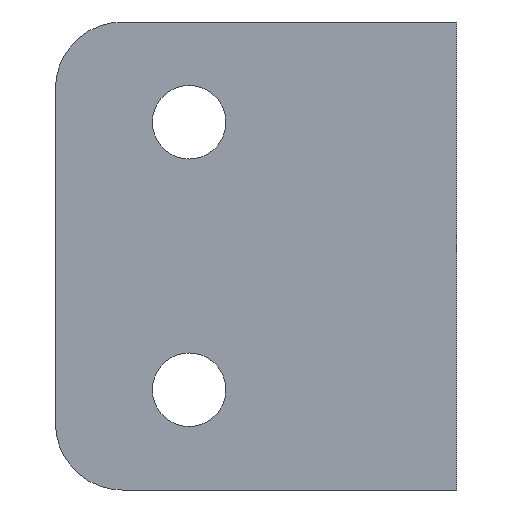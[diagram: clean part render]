
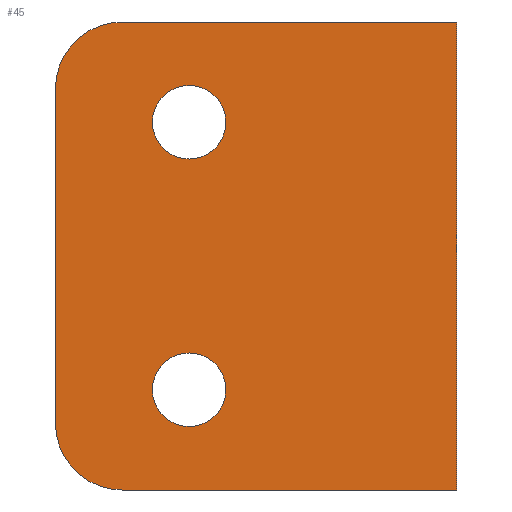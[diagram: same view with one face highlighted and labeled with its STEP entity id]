
A CAD part, front view. The second image highlights one B-rep face of the part: STEP entity #45.
In plain terms, the highlighted planar face has unit normal (0, -1, 0).
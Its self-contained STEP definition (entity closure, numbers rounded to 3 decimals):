
#2 = CARTESIAN_POINT ( 'NONE',  ( 0., 0., 17.5 ) ) ;
#14 = EDGE_CURVE ( 'NONE', #820, #436, #964, .T. ) ;
#34 = CIRCLE ( 'NONE', #442, 2.75 ) ;
#38 = DIRECTION ( 'NONE',  ( 0., 1., 0. ) ) ;
#45 = ADVANCED_FACE ( 'NONE', ( #932, #747, #712 ), #722, .F. ) ;
#46 = DIRECTION ( 'NONE',  ( 1., 0., 0. ) ) ;
#54 = ORIENTED_EDGE ( 'NONE', *, *, #575, .T. ) ;
#64 = EDGE_CURVE ( 'NONE', #555, #820, #297, .T. ) ;
#65 = VERTEX_POINT ( 'NONE', #690 ) ;
#66 = CARTESIAN_POINT ( 'NONE',  ( -30., 0., 17.5 ) ) ;
#96 = DIRECTION ( 'NONE',  ( 0., 1., 0. ) ) ;
#107 = AXIS2_PLACEMENT_3D ( 'NONE', #450, #661, #383 ) ;
#131 = ORIENTED_EDGE ( 'NONE', *, *, #156, .T. ) ;
#147 = ORIENTED_EDGE ( 'NONE', *, *, #516, .T. ) ;
#156 = EDGE_CURVE ( 'NONE', #449, #596, #755, .T. ) ;
#174 = CARTESIAN_POINT ( 'NONE',  ( -30., 0., 12.5 ) ) ;
#192 = DIRECTION ( 'NONE',  ( 0., 1., 0. ) ) ;
#199 = DIRECTION ( 'NONE',  ( 0., 0., 1. ) ) ;
#210 = EDGE_LOOP ( 'NONE', ( #131, #1037 ) ) ;
#229 = EDGE_LOOP ( 'NONE', ( #147, #54 ) ) ;
#297 = LINE ( 'NONE', #66, #490 ) ;
#317 = EDGE_CURVE ( 'NONE', #550, #65, #546, .T. ) ;
#324 = ORIENTED_EDGE ( 'NONE', *, *, #64, .T. ) ;
#337 = CARTESIAN_POINT ( 'NONE',  ( -20., 0., 12.75 ) ) ;
#339 = ORIENTED_EDGE ( 'NONE', *, *, #317, .F. ) ;
#347 = DIRECTION ( 'NONE',  ( -1., 0., 0. ) ) ;
#355 = ORIENTED_EDGE ( 'NONE', *, *, #1032, .F. ) ;
#366 = AXIS2_PLACEMENT_3D ( 'NONE', #737, #615, #591 ) ;
#375 = CARTESIAN_POINT ( 'NONE',  ( -20., 0., 10. ) ) ;
#383 = DIRECTION ( 'NONE',  ( 0., 0., 1. ) ) ;
#422 = CIRCLE ( 'NONE', #366, 5. ) ;
#423 = AXIS2_PLACEMENT_3D ( 'NONE', #505, #38, #607 ) ;
#436 = VERTEX_POINT ( 'NONE', #888 ) ;
#442 = AXIS2_PLACEMENT_3D ( 'NONE', #375, #96, #199 ) ;
#449 = VERTEX_POINT ( 'NONE', #980 ) ;
#450 = CARTESIAN_POINT ( 'NONE',  ( -20., 0., -10. ) ) ;
#465 = CARTESIAN_POINT ( 'NONE',  ( 0., 0., 17.5 ) ) ;
#473 = DIRECTION ( 'NONE',  ( 0., 0., 1. ) ) ;
#486 = EDGE_CURVE ( 'NONE', #436, #784, #696, .T. ) ;
#490 = VECTOR ( 'NONE', #1002, 1000. ) ;
#494 = CARTESIAN_POINT ( 'NONE',  ( -30., 0., -12.5 ) ) ;
#505 = CARTESIAN_POINT ( 'NONE',  ( -20., 0., -10. ) ) ;
#516 = EDGE_CURVE ( 'NONE', #1038, #846, #670, .T. ) ;
#546 = LINE ( 'NONE', #465, #963 ) ;
#550 = VERTEX_POINT ( 'NONE', #567 ) ;
#555 = VERTEX_POINT ( 'NONE', #174 ) ;
#567 = CARTESIAN_POINT ( 'NONE',  ( -25., 0., 17.5 ) ) ;
#575 = EDGE_CURVE ( 'NONE', #846, #1038, #34, .T. ) ;
#591 = DIRECTION ( 'NONE',  ( -1., 0., 0. ) ) ;
#596 = VERTEX_POINT ( 'NONE', #985 ) ;
#597 = EDGE_CURVE ( 'NONE', #596, #449, #621, .T. ) ;
#607 = DIRECTION ( 'NONE',  ( 0., 0., 1. ) ) ;
#615 = DIRECTION ( 'NONE',  ( 0., -1., 0. ) ) ;
#621 = CIRCLE ( 'NONE', #423, 2.75 ) ;
#645 = AXIS2_PLACEMENT_3D ( 'NONE', #968, #1024, #706 ) ;
#661 = DIRECTION ( 'NONE',  ( 0., 1., 0. ) ) ;
#662 = ORIENTED_EDGE ( 'NONE', *, *, #14, .T. ) ;
#670 = CIRCLE ( 'NONE', #983, 2.75 ) ;
#678 = CARTESIAN_POINT ( 'NONE',  ( -20., 0., 7.25 ) ) ;
#682 = EDGE_CURVE ( 'NONE', #550, #555, #422, .T. ) ;
#690 = CARTESIAN_POINT ( 'NONE',  ( 0., 0., 17.5 ) ) ;
#696 = LINE ( 'NONE', #990, #896 ) ;
#702 = ORIENTED_EDGE ( 'NONE', *, *, #682, .T. ) ;
#706 = DIRECTION ( 'NONE',  ( -1., 0., 0. ) ) ;
#712 = FACE_OUTER_BOUND ( 'NONE', #1013, .T. ) ;
#722 = PLANE ( 'NONE',  #645 ) ;
#733 = DIRECTION ( 'NONE',  ( 1., 0., 0. ) ) ;
#737 = CARTESIAN_POINT ( 'NONE',  ( -25., 0., 12.5 ) ) ;
#747 = FACE_BOUND ( 'NONE', #229, .T. ) ;
#755 = CIRCLE ( 'NONE', #107, 2.75 ) ;
#779 = DIRECTION ( 'NONE',  ( 0., 0., -1. ) ) ;
#784 = VERTEX_POINT ( 'NONE', #843 ) ;
#797 = CARTESIAN_POINT ( 'NONE',  ( -25., 0., -12.5 ) ) ;
#809 = ORIENTED_EDGE ( 'NONE', *, *, #486, .T. ) ;
#820 = VERTEX_POINT ( 'NONE', #494 ) ;
#843 = CARTESIAN_POINT ( 'NONE',  ( 0., 0., -17.5 ) ) ;
#846 = VERTEX_POINT ( 'NONE', #678 ) ;
#870 = LINE ( 'NONE', #2, #927 ) ;
#874 = AXIS2_PLACEMENT_3D ( 'NONE', #797, #998, #347 ) ;
#888 = CARTESIAN_POINT ( 'NONE',  ( -25., 0., -17.5 ) ) ;
#896 = VECTOR ( 'NONE', #46, 1000. ) ;
#927 = VECTOR ( 'NONE', #779, 1000. ) ;
#932 = FACE_BOUND ( 'NONE', #210, .T. ) ;
#963 = VECTOR ( 'NONE', #733, 1000. ) ;
#964 = CIRCLE ( 'NONE', #874, 5. ) ;
#968 = CARTESIAN_POINT ( 'NONE',  ( 0., 0., 17.5 ) ) ;
#980 = CARTESIAN_POINT ( 'NONE',  ( -20., 0., -7.25 ) ) ;
#983 = AXIS2_PLACEMENT_3D ( 'NONE', #1017, #192, #473 ) ;
#985 = CARTESIAN_POINT ( 'NONE',  ( -20., 0., -12.75 ) ) ;
#990 = CARTESIAN_POINT ( 'NONE',  ( 0., 0., -17.5 ) ) ;
#998 = DIRECTION ( 'NONE',  ( 0., -1., 0. ) ) ;
#1002 = DIRECTION ( 'NONE',  ( 0., 0., -1. ) ) ;
#1013 = EDGE_LOOP ( 'NONE', ( #339, #702, #324, #662, #809, #355 ) ) ;
#1017 = CARTESIAN_POINT ( 'NONE',  ( -20., 0., 10. ) ) ;
#1024 = DIRECTION ( 'NONE',  ( 0., 1., 0. ) ) ;
#1032 = EDGE_CURVE ( 'NONE', #65, #784, #870, .T. ) ;
#1037 = ORIENTED_EDGE ( 'NONE', *, *, #597, .T. ) ;
#1038 = VERTEX_POINT ( 'NONE', #337 ) ;
